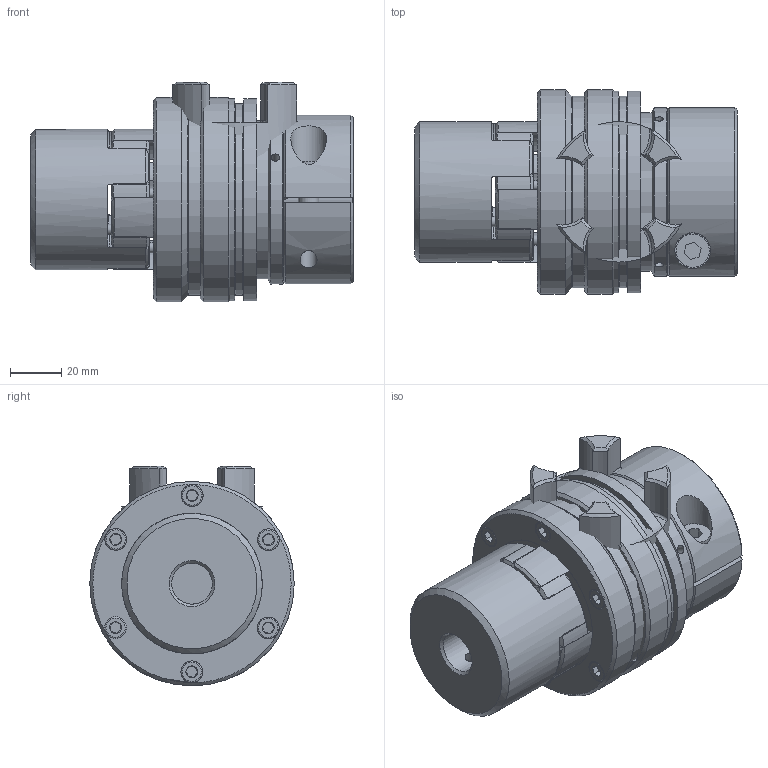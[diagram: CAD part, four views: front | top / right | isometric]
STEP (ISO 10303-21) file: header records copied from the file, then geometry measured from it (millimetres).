
FILE_DESCRIPTION( ( 'Unknown' ), '1' );
FILE_NAME( 'K:/Daten/homepage/cad - homepage/KBK-E-PK/KBK EPK-24.stp', 'Unknown', ( 'Unknown' ), ( 'Unknown' ), 'XStep 1.0', 'Unknown', ' ' );
FILE_SCHEMA( ( 'automotive_design' ) );
Length unit declared in the file: millimetre
Products named in the file (17): Assem1; Assem2; Assem3; Zylinderschraube DIN 912_1; ball_bearing_-_6007_0_01; ball_bearing_-_6007_0_02; ball_bearing_-_6007_0_03; Stellring 60; Druckring 60; Flansch 60; a_35; Zahnkranz_24_Standard; KBE 1 - 24_Nabe; ISO EN DIN 4762_M5x20; KBK L-K-60 Grundkörper; Klemmnabe 60; Elastomerflansch 24
Bounding box: 126.3 x 80 x 86 mm (x, y, z)
Volume: 755344.2 mm3; surface area: 264279.2 mm2
Topology: 37 solids, 37 shells, 927 faces, 2033 edges, 1246 vertices
Faces by surface type: cone 304, cylinder 296, plane 268, torus 59
Full cylindrical faces by diameter (mm): 2.5 x4, 3.242 x6, 4 x22, 4.134 x12, 4.2 x2, 5 x7, 5.2 x12, 6.647 x2, 8 x3, 8.5 x21, 13 x3, 14 x2, 15 x2, 16 x2, 27 x4, 30 x2, 32 x2, 33 x2, 35 x7, 43.7 x6, 44 x2, 46 x4, 46.5 x2, 53.6 x6, 55 x4, 61.3 x2, 62 x7, 66 x2, 75 x4, 79 x2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
Entity records: 11584 total; most frequent: CARTESIAN_POINT 2834, DIRECTION 1862, ORIENTED_EDGE 1484, AXIS2_PLACEMENT_3D 866, EDGE_CURVE 742, EDGE_LOOP 578, VERTEX_POINT 512, FACE_OUTER_BOUND 478
